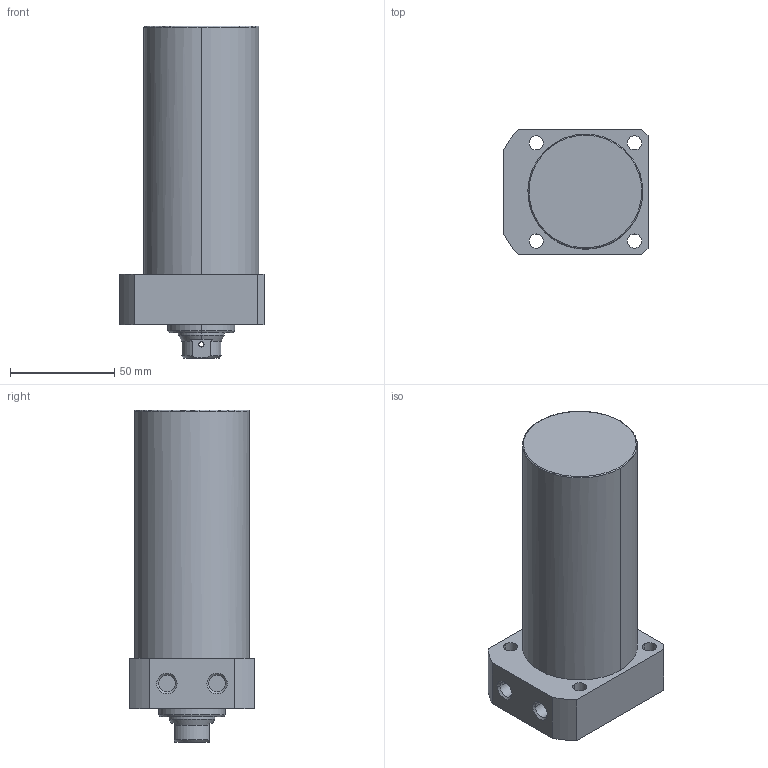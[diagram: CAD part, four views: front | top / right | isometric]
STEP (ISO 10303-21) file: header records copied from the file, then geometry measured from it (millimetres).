
FILE_DESCRIPTION((' '),'2;1');
FILE_NAME( 'TLLR-055CB-090.STEP.stp', '2025-10-24T16:34:44', (' '), ('--- Datakit www.datakit.com---'), ' Datakit CrossCadWare V2024.1 Dec 21 2023', 'Mastercam 2025', ' ');
FILE_SCHEMA(('AUTOMOTIVE_DESIGN { 1 0 10303 214 1 1 1 1 }'));
Length unit declared in the file: millimetre
Products named in the file (1): TLLR-055CB-090
Bounding box: 69 x 60 x 159 mm (x, y, z)
Volume: 380309 mm3; surface area: 38897.2 mm2
Topology: 1 solids, 1 shells, 67 faces, 197 edges, 136 vertices
Faces by surface type: cylinder 32, plane 19, cone 14, torus 2
Entity records: 3058 total; most frequent: CARTESIAN_POINT 1139, DIRECTION 426, ORIENTED_EDGE 390, EDGE_CURVE 195, AXIS2_PLACEMENT_3D 179, VERTEX_POINT 136, CIRCLE 111, EDGE_LOOP 85
